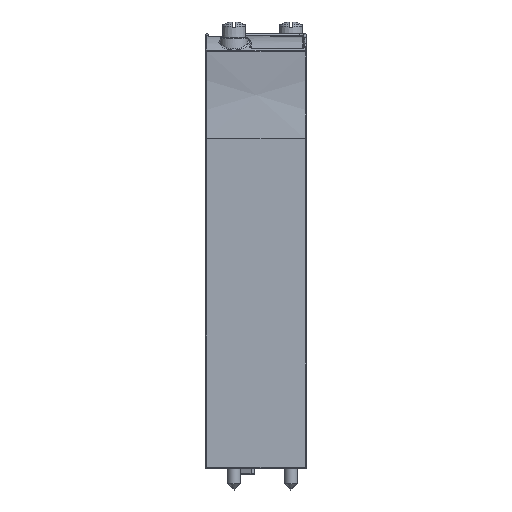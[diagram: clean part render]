
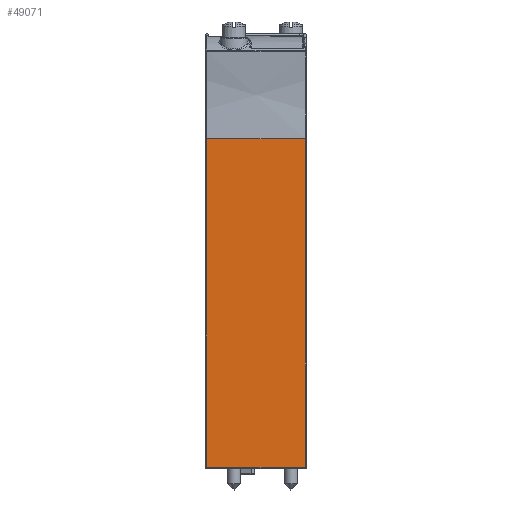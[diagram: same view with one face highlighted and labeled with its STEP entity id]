
A CAD part, front view. The second image highlights one B-rep face of the part: STEP entity #49071.
In plain terms, the highlighted planar face has unit normal (-0.009, -1, 0).
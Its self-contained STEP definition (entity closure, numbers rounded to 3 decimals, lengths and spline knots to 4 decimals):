
#1276=DIRECTION('',(0.,0.,1.));
#1277=VECTOR('',#1276,2.502);
#1278=CARTESIAN_POINT('',(0.0099,-2.0438,0.01));
#1279=LINE('',#1278,#1277);
#15170=CARTESIAN_POINT('',(0.0099,-2.0438,
2.512));
#15171=CARTESIAN_POINT('',(0.0933,-2.0445,
2.512));
#15172=CARTESIAN_POINT('',(0.26,-2.046,
2.5122));
#15173=CARTESIAN_POINT('',(0.5096,-2.0482,
2.5123));
#15174=CARTESIAN_POINT('',(0.6759,-2.0496,
2.5125));
#15175=CARTESIAN_POINT('',(0.7589,-2.0503,
2.5125));
#15177=DIRECTION('',(0.,0.,-1.));
#15178=VECTOR('',#15177,2.5025);
#15179=CARTESIAN_POINT('',(0.7589,-2.0503,
2.5125));
#15180=LINE('',#15179,#15178);
#15204=DIRECTION('',(-1.,0.009,0.));
#15205=VECTOR('',#15204,0.749);
#15206=CARTESIAN_POINT('',(0.7589,-2.0503,0.01));
#15207=LINE('',#15206,#15205);
#25453=CARTESIAN_POINT('',(0.0099,-2.0438,0.01));
#25454=CARTESIAN_POINT('',(0.0099,-2.0438,
2.512));
#25455=VERTEX_POINT('',#25453);
#25456=VERTEX_POINT('',#25454);
#25461=CARTESIAN_POINT('',(0.7589,-2.0503,
2.5125));
#25462=CARTESIAN_POINT('',(0.7589,-2.0503,0.01));
#25463=VERTEX_POINT('',#25461);
#25464=VERTEX_POINT('',#25462);
#49058=CARTESIAN_POINT('',(0.719,-2.05,4.34));
#49059=DIRECTION('',(-0.009,-1.,0.));
#49060=DIRECTION('',(0.,0.,-1.));
#49061=AXIS2_PLACEMENT_3D('',#49058,#49059,#49060);
#49062=PLANE('',#49061);
#49063=ORIENTED_EDGE('',*,*,#30443,.T.);
#49064=ORIENTED_EDGE('',*,*,#35956,.T.);
#49066=ORIENTED_EDGE('',*,*,#49065,.T.);
#49068=ORIENTED_EDGE('',*,*,#49067,.T.);
#49069=EDGE_LOOP('',(#49063,#49064,#49066,#49068));
#49070=FACE_OUTER_BOUND('',#49069,.F.);
#49071=ADVANCED_FACE('',(#49070),#49062,.T.);
#15176=B_SPLINE_CURVE_WITH_KNOTS('',3,(#15170,#15171,#15172,#15173,#15174,
#15175),.UNSPECIFIED.,.F.,.F.,(4,1,1,4),(0.,0.3333,
0.6667,1.),.UNSPECIFIED.);
#30443=EDGE_CURVE('',#25455,#25456,#1279,.T.);
#35956=EDGE_CURVE('',#25456,#25463,#15176,.T.);
#49065=EDGE_CURVE('',#25463,#25464,#15180,.T.);
#49067=EDGE_CURVE('',#25464,#25455,#15207,.T.);
